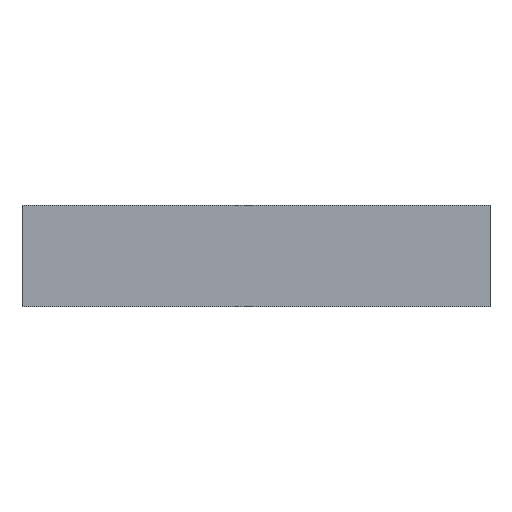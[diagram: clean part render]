
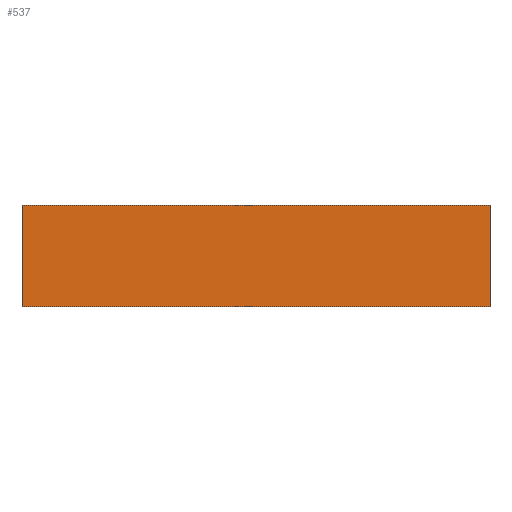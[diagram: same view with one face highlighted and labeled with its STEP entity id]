
A CAD part, top view. The second image highlights one B-rep face of the part: STEP entity #537.
In plain terms, the highlighted planar face has unit normal (0, 0, 1).
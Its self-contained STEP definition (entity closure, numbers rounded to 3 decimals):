
#266=ORIENTED_EDGE('',*,*,#378,.T.);
#267=ORIENTED_EDGE('',*,*,#379,.F.);
#268=ORIENTED_EDGE('',*,*,#374,.F.);
#269=ORIENTED_EDGE('',*,*,#380,.T.);
#310=VECTOR('',#424,1.);
#314=VECTOR('',#430,1.);
#315=VECTOR('',#431,1.);
#316=VECTOR('',#432,1.);
#334=LINE('',#469,#310);
#338=LINE('',#478,#314);
#339=LINE('',#479,#315);
#340=LINE('',#480,#316);
#358=VERTEX_POINT('',#467);
#359=VERTEX_POINT('',#468);
#362=VERTEX_POINT('',#476);
#363=VERTEX_POINT('',#477);
#374=EDGE_CURVE('',#358,#359,#334,.T.);
#378=EDGE_CURVE('',#362,#363,#338,.T.);
#379=EDGE_CURVE('',#359,#363,#339,.T.);
#380=EDGE_CURVE('',#358,#362,#340,.T.);
#399=EDGE_LOOP('',(#266,#267,#268,#269));
#411=FACE_BOUND('',#399,.T.);
#424=DIRECTION('',(-230.161,0.,0.));
#428=DIRECTION('',(0.,0.,1.));
#429=DIRECTION('',(0.,-1.,0.));
#430=DIRECTION('',(-230.161,0.,0.));
#431=DIRECTION('',(0.,50.,0.));
#432=DIRECTION('',(0.,50.,0.));
#467=CARTESIAN_POINT('',(230.161,-25.,0.));
#468=CARTESIAN_POINT('',(0.,-25.,0.));
#469=CARTESIAN_POINT('',(230.161,-25.,0.));
#475=CARTESIAN_POINT('',(200.,25.,0.));
#476=CARTESIAN_POINT('',(230.161,25.,0.));
#477=CARTESIAN_POINT('',(0.,25.,0.));
#478=CARTESIAN_POINT('',(230.161,25.,0.));
#479=CARTESIAN_POINT('',(0.,-25.,0.));
#480=CARTESIAN_POINT('',(230.161,-25.,0.));
#517=AXIS2_PLACEMENT_3D('',#475,#428,#429);
#527=PLANE('',#517);
#537=ADVANCED_FACE('',(#411),#527,.T.);
